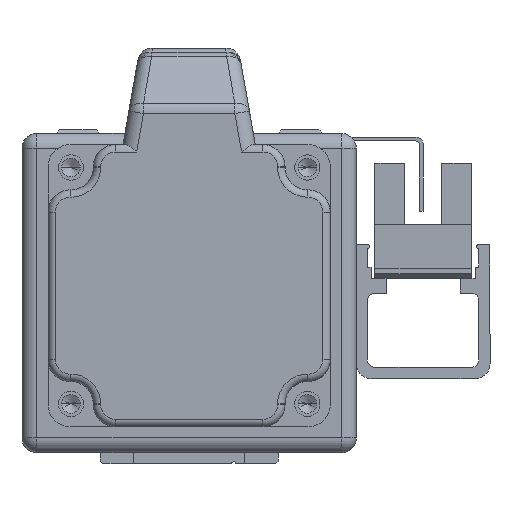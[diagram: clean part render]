
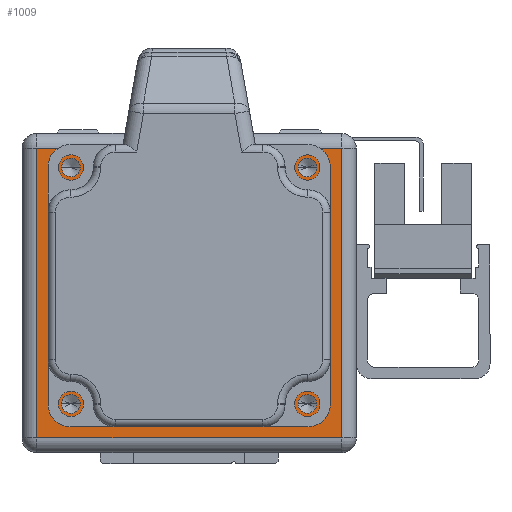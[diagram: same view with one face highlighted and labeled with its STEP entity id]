
A CAD part, left-side view. The second image highlights one B-rep face of the part: STEP entity #1009.
In plain terms, the highlighted planar face has unit normal (-1, 0, 0) as drawn and (0, 0, -1) by its records, which use the part's own axes.
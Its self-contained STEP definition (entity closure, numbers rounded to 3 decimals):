
#100 = DIRECTION ( 'NONE',  ( 0., 0., -1. ) ) ;
#181 = CIRCLE ( 'NONE', #2744, 15.5 ) ;
#752 = DIRECTION ( 'NONE',  ( 1., 0., 0. ) ) ;
#875 = DIRECTION ( 'NONE',  ( 0., -1., 0. ) ) ;
#1009 = ADVANCED_FACE ( 'NONE', ( #6791, #6825, #6755, #6891, #6722, #6688 ), #29321, .F. ) ;
#1286 = VERTEX_POINT ( 'NONE', #30610 ) ;
#1547 = VERTEX_POINT ( 'NONE', #9644 ) ;
#1630 = EDGE_LOOP ( 'NONE', ( #24795, #24906, #24963, #25329 ) ) ;
#2027 = EDGE_LOOP ( 'NONE', ( #23921, #24004 ) ) ;
#2117 = EDGE_LOOP ( 'NONE', ( #24230, #24286 ) ) ;
#2146 = EDGE_LOOP ( 'NONE', ( #23373, #23489 ) ) ;
#2435 = VERTEX_POINT ( 'NONE', #28586 ) ;
#2744 = AXIS2_PLACEMENT_3D ( 'NONE', #20476, #5697, #22877 ) ;
#2756 = CARTESIAN_POINT ( 'NONE',  ( 20.5, 19.5, 0. ) ) ;
#2779 = EDGE_LOOP ( 'NONE', ( #24587, #24702 ) ) ;
#2786 = AXIS2_PLACEMENT_3D ( 'NONE', #3054, #20386, #5590 ) ;
#3054 = CARTESIAN_POINT ( 'NONE',  ( 15.91, -14.91, 0. ) ) ;
#3081 = AXIS2_PLACEMENT_3D ( 'NONE', #15236, #100, #17746 ) ;
#3170 = AXIS2_PLACEMENT_3D ( 'NONE', #7487, #24572, #9954 ) ;
#3224 = EDGE_LOOP ( 'NONE', ( #23642, #23741 ) ) ;
#3519 = AXIS2_PLACEMENT_3D ( 'NONE', #12149, #29123, #14713 ) ;
#3735 = CARTESIAN_POINT ( 'NONE',  ( 14.66, -14.91, 0. ) ) ;
#4325 = CIRCLE ( 'NONE', #10251, 15.5 ) ;
#5590 = DIRECTION ( 'NONE',  ( -1., 0., 0. ) ) ;
#5697 = DIRECTION ( 'NONE',  ( 0., 0., 1. ) ) ;
#6120 = CARTESIAN_POINT ( 'NONE',  ( 22.5, -19.5, 0. ) ) ;
#6688 = FACE_OUTER_BOUND ( 'NONE', #1630, .T. ) ;
#6722 = FACE_BOUND ( 'NONE', #2779, .T. ) ;
#6755 = FACE_BOUND ( 'NONE', #2027, .T. ) ;
#6791 = FACE_BOUND ( 'NONE', #2146, .T. ) ;
#6825 = FACE_BOUND ( 'NONE', #3224, .T. ) ;
#6891 = FACE_BOUND ( 'NONE', #2117, .T. ) ;
#7039 = CARTESIAN_POINT ( 'NONE',  ( 17.16, -14.91, 0. ) ) ;
#7207 = VERTEX_POINT ( 'NONE', #2756 ) ;
#7487 = CARTESIAN_POINT ( 'NONE',  ( -15.91, 16.91, 0. ) ) ;
#8320 = CARTESIAN_POINT ( 'NONE',  ( 22.5, 19.5, 0. ) ) ;
#9644 = CARTESIAN_POINT ( 'NONE',  ( 20.5, -19.5, 0. ) ) ;
#9954 = DIRECTION ( 'NONE',  ( -1., 0., 0. ) ) ;
#10251 = AXIS2_PLACEMENT_3D ( 'NONE', #18934, #18899, #18868 ) ;
#10261 = DIRECTION ( 'NONE',  ( -1., 0., 0. ) ) ;
#10324 = DIRECTION ( 'NONE',  ( 0., 0., -1. ) ) ;
#10420 = CARTESIAN_POINT ( 'NONE',  ( 15.91, -14.91, 0. ) ) ;
#11647 = CIRCLE ( 'NONE', #14824, 1.25 ) ;
#12149 = CARTESIAN_POINT ( 'NONE',  ( 15.91, 16.91, 0. ) ) ;
#12337 = AXIS2_PLACEMENT_3D ( 'NONE', #29024, #29742, #29839 ) ;
#12670 = CIRCLE ( 'NONE', #15113, 1.25 ) ;
#13640 = CIRCLE ( 'NONE', #16446, 1.25 ) ;
#14355 = CIRCLE ( 'NONE', #16921, 1.25 ) ;
#14713 = DIRECTION ( 'NONE',  ( -1., 0., 0. ) ) ;
#14824 = AXIS2_PLACEMENT_3D ( 'NONE', #10420, #10324, #10261 ) ;
#14926 = CARTESIAN_POINT ( 'NONE',  ( 14.66, 16.91, 0. ) ) ;
#15004 = VERTEX_POINT ( 'NONE', #16871 ) ;
#15033 = VERTEX_POINT ( 'NONE', #14926 ) ;
#15113 = AXIS2_PLACEMENT_3D ( 'NONE', #16134, #16098, #16023 ) ;
#15236 = CARTESIAN_POINT ( 'NONE',  ( -15.91, -14.91, 0. ) ) ;
#15389 = VERTEX_POINT ( 'NONE', #31530 ) ;
#15577 = VERTEX_POINT ( 'NONE', #28415 ) ;
#16001 = VERTEX_POINT ( 'NONE', #20998 ) ;
#16017 = CARTESIAN_POINT ( 'NONE',  ( 20.5, -21.5, 0. ) ) ;
#16023 = DIRECTION ( 'NONE',  ( -1., 0., 0. ) ) ;
#16041 = VERTEX_POINT ( 'NONE', #20460 ) ;
#16098 = DIRECTION ( 'NONE',  ( 0., 0., -1. ) ) ;
#16134 = CARTESIAN_POINT ( 'NONE',  ( -15.91, -14.91, 0. ) ) ;
#16446 = AXIS2_PLACEMENT_3D ( 'NONE', #21591, #21529, #21495 ) ;
#16871 = CARTESIAN_POINT ( 'NONE',  ( 17.16, 16.91, 0. ) ) ;
#16921 = AXIS2_PLACEMENT_3D ( 'NONE', #26074, #26035, #25999 ) ;
#16959 = VERTEX_POINT ( 'NONE', #7039 ) ;
#17141 = VERTEX_POINT ( 'NONE', #3735 ) ;
#17746 = DIRECTION ( 'NONE',  ( -1., 0., 0. ) ) ;
#18868 = DIRECTION ( 'NONE',  ( 1., 0., 0. ) ) ;
#18899 = DIRECTION ( 'NONE',  ( 0., 0., 1. ) ) ;
#18934 = CARTESIAN_POINT ( 'NONE',  ( 0., 1., 0. ) ) ;
#20153 = EDGE_CURVE ( 'NONE', #15004, #15033, #14355, .T. ) ;
#20286 = EDGE_CURVE ( 'NONE', #15389, #15577, #13640, .T. ) ;
#20386 = DIRECTION ( 'NONE',  ( 0., 0., -1. ) ) ;
#20417 = EDGE_CURVE ( 'NONE', #16001, #16041, #12670, .T. ) ;
#20460 = CARTESIAN_POINT ( 'NONE',  ( -17.16, -14.91, 0. ) ) ;
#20476 = CARTESIAN_POINT ( 'NONE',  ( 0., 1., 0. ) ) ;
#20541 = EDGE_CURVE ( 'NONE', #16959, #17141, #11647, .T. ) ;
#20998 = CARTESIAN_POINT ( 'NONE',  ( -14.66, -14.91, 0. ) ) ;
#21495 = DIRECTION ( 'NONE',  ( -1., 0., 0. ) ) ;
#21529 = DIRECTION ( 'NONE',  ( 0., 0., -1. ) ) ;
#21584 = VERTEX_POINT ( 'NONE', #27397 ) ;
#21591 = CARTESIAN_POINT ( 'NONE',  ( -15.91, 16.91, 0. ) ) ;
#21734 = VERTEX_POINT ( 'NONE', #23778 ) ;
#21982 = EDGE_CURVE ( 'NONE', #21584, #21734, #4325, .T. ) ;
#22877 = DIRECTION ( 'NONE',  ( 1., 0., 0. ) ) ;
#23317 = DIRECTION ( 'NONE',  ( -1., 0., 0. ) ) ;
#23373 = ORIENTED_EDGE ( 'NONE', *, *, #26497, .F. ) ;
#23489 = ORIENTED_EDGE ( 'NONE', *, *, #20153, .F. ) ;
#23636 = DIRECTION ( 'NONE',  ( 0., 1., 0. ) ) ;
#23642 = ORIENTED_EDGE ( 'NONE', *, *, #26551, .F. ) ;
#23741 = ORIENTED_EDGE ( 'NONE', *, *, #20286, .F. ) ;
#23778 = CARTESIAN_POINT ( 'NONE',  ( 15.5, 1., 0. ) ) ;
#23921 = ORIENTED_EDGE ( 'NONE', *, *, #26597, .F. ) ;
#24004 = ORIENTED_EDGE ( 'NONE', *, *, #20417, .F. ) ;
#24230 = ORIENTED_EDGE ( 'NONE', *, *, #26650, .F. ) ;
#24286 = ORIENTED_EDGE ( 'NONE', *, *, #20541, .F. ) ;
#24572 = DIRECTION ( 'NONE',  ( 0., 0., -1. ) ) ;
#24587 = ORIENTED_EDGE ( 'NONE', *, *, #21982, .T. ) ;
#24604 = VECTOR ( 'NONE', #23636, 1000. ) ;
#24702 = ORIENTED_EDGE ( 'NONE', *, *, #26661, .T. ) ;
#24732 = LINE ( 'NONE', #28474, #24604 ) ;
#24795 = ORIENTED_EDGE ( 'NONE', *, *, #26699, .T. ) ;
#24906 = ORIENTED_EDGE ( 'NONE', *, *, #26712, .T. ) ;
#24963 = ORIENTED_EDGE ( 'NONE', *, *, #26746, .T. ) ;
#25329 = ORIENTED_EDGE ( 'NONE', *, *, #26802, .T. ) ;
#25653 = VECTOR ( 'NONE', #23317, 1000. ) ;
#25682 = LINE ( 'NONE', #6120, #25653 ) ;
#25705 = LINE ( 'NONE', #16017, #25837 ) ;
#25837 = VECTOR ( 'NONE', #875, 1000. ) ;
#25868 = VECTOR ( 'NONE', #752, 1000. ) ;
#25999 = DIRECTION ( 'NONE',  ( -1., 0., 0. ) ) ;
#26011 = LINE ( 'NONE', #8320, #25868 ) ;
#26035 = DIRECTION ( 'NONE',  ( 0., 0., -1. ) ) ;
#26074 = CARTESIAN_POINT ( 'NONE',  ( 15.91, 16.91, 0. ) ) ;
#26497 = EDGE_CURVE ( 'NONE', #15033, #15004, #28185, .T. ) ;
#26551 = EDGE_CURVE ( 'NONE', #15577, #15389, #27921, .T. ) ;
#26574 = CIRCLE ( 'NONE', #2786, 1.25 ) ;
#26597 = EDGE_CURVE ( 'NONE', #16041, #16001, #27352, .T. ) ;
#26650 = EDGE_CURVE ( 'NONE', #17141, #16959, #26574, .T. ) ;
#26661 = EDGE_CURVE ( 'NONE', #21734, #21584, #181, .T. ) ;
#26699 = EDGE_CURVE ( 'NONE', #2435, #7207, #26011, .T. ) ;
#26712 = EDGE_CURVE ( 'NONE', #7207, #1547, #25705, .T. ) ;
#26746 = EDGE_CURVE ( 'NONE', #1547, #1286, #25682, .T. ) ;
#26802 = EDGE_CURVE ( 'NONE', #1286, #2435, #24732, .T. ) ;
#27352 = CIRCLE ( 'NONE', #3081, 1.25 ) ;
#27397 = CARTESIAN_POINT ( 'NONE',  ( -15.5, 1., 0. ) ) ;
#27921 = CIRCLE ( 'NONE', #3170, 1.25 ) ;
#28185 = CIRCLE ( 'NONE', #3519, 1.25 ) ;
#28415 = CARTESIAN_POINT ( 'NONE',  ( -17.16, 16.91, 0. ) ) ;
#28474 = CARTESIAN_POINT ( 'NONE',  ( -20.5, -21.5, 0. ) ) ;
#28586 = CARTESIAN_POINT ( 'NONE',  ( -20.5, 19.5, 0. ) ) ;
#29024 = CARTESIAN_POINT ( 'NONE',  ( 22.5, -21.5, 0. ) ) ;
#29123 = DIRECTION ( 'NONE',  ( 0., 0., -1. ) ) ;
#29321 = PLANE ( 'NONE',  #12337 ) ;
#29742 = DIRECTION ( 'NONE',  ( 0., 0., 1. ) ) ;
#29839 = DIRECTION ( 'NONE',  ( 1., 0., 0. ) ) ;
#30610 = CARTESIAN_POINT ( 'NONE',  ( -20.5, -19.5, 0. ) ) ;
#31530 = CARTESIAN_POINT ( 'NONE',  ( -14.66, 16.91, 0. ) ) ;
